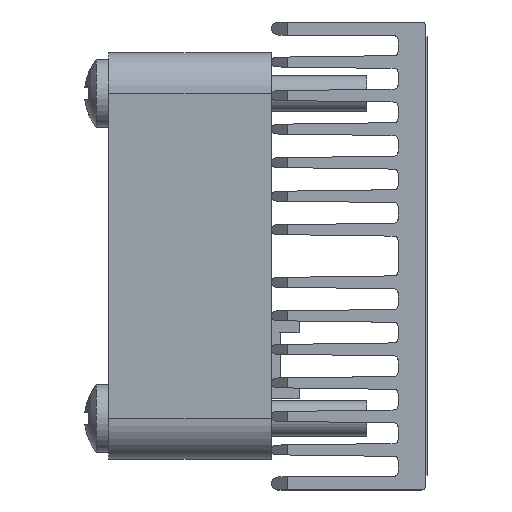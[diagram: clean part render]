
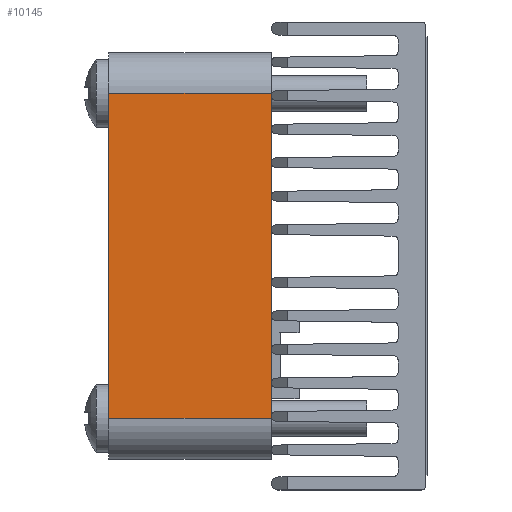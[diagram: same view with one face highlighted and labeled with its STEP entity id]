
A CAD part, left-side view. The second image highlights one B-rep face of the part: STEP entity #10145.
In plain terms, the highlighted planar face has unit normal (-1, 0, 0).
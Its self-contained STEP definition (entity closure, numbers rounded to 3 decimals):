
#857 = EDGE_LOOP ( 'NONE', ( #4885, #13428, #13962, #9591 ) ) ;
#2662 = DIRECTION ( 'NONE',  ( 0., -1., 0. ) ) ;
#3101 = VECTOR ( 'NONE', #11987, 1000. ) ;
#3375 = DIRECTION ( 'NONE',  ( 0., -1., 0. ) ) ;
#3704 = EDGE_CURVE ( 'NONE', #10472, #12248, #11474, .T. ) ;
#4844 = VECTOR ( 'NONE', #13564, 1000. ) ;
#4885 = ORIENTED_EDGE ( 'NONE', *, *, #16167, .T. ) ;
#5004 = VECTOR ( 'NONE', #2662, 1000. ) ;
#5822 = CARTESIAN_POINT ( 'NONE',  ( -16.008, 55.3, 6.534 ) ) ;
#6286 = CARTESIAN_POINT ( 'NONE',  ( -16.008, 55.3, 6.534 ) ) ;
#6735 = EDGE_CURVE ( 'NONE', #12422, #14879, #8528, .T. ) ;
#6761 = CARTESIAN_POINT ( 'NONE',  ( -16.008, 45.3, -13.466 ) ) ;
#7513 = CARTESIAN_POINT ( 'NONE',  ( -16.008, 55.3, -13.466 ) ) ;
#7682 = DIRECTION ( 'NONE',  ( 0., 0., -1. ) ) ;
#8086 = CARTESIAN_POINT ( 'NONE',  ( -16.008, 55.3, -13.466 ) ) ;
#8368 = PLANE ( 'NONE',  #14610 ) ;
#8528 = LINE ( 'NONE', #7513, #8687 ) ;
#8677 = CARTESIAN_POINT ( 'NONE',  ( -16.008, 45.3, 6.534 ) ) ;
#8687 = VECTOR ( 'NONE', #3375, 1000. ) ;
#9591 = ORIENTED_EDGE ( 'NONE', *, *, #6735, .T. ) ;
#9658 = CARTESIAN_POINT ( 'NONE',  ( -16.008, 55.3, 6.534 ) ) ;
#9979 = CARTESIAN_POINT ( 'NONE',  ( -16.008, 45.3, 6.534 ) ) ;
#10145 = ADVANCED_FACE ( 'NONE', ( #13700 ), #8368, .F. ) ;
#10472 = VERTEX_POINT ( 'NONE', #9658 ) ;
#10554 = EDGE_CURVE ( 'NONE', #12422, #10472, #13413, .T. ) ;
#11474 = LINE ( 'NONE', #12825, #5004 ) ;
#11987 = DIRECTION ( 'NONE',  ( 0., 0., 1. ) ) ;
#12248 = VERTEX_POINT ( 'NONE', #8677 ) ;
#12422 = VERTEX_POINT ( 'NONE', #8086 ) ;
#12825 = CARTESIAN_POINT ( 'NONE',  ( -16.008, 55.3, 6.534 ) ) ;
#13413 = LINE ( 'NONE', #5822, #3101 ) ;
#13428 = ORIENTED_EDGE ( 'NONE', *, *, #3704, .F. ) ;
#13564 = DIRECTION ( 'NONE',  ( 0., 0., 1. ) ) ;
#13640 = LINE ( 'NONE', #9979, #4844 ) ;
#13700 = FACE_OUTER_BOUND ( 'NONE', #857, .T. ) ;
#13962 = ORIENTED_EDGE ( 'NONE', *, *, #10554, .F. ) ;
#14610 = AXIS2_PLACEMENT_3D ( 'NONE', #6286, #16468, #7682 ) ;
#14879 = VERTEX_POINT ( 'NONE', #6761 ) ;
#16167 = EDGE_CURVE ( 'NONE', #14879, #12248, #13640, .T. ) ;
#16468 = DIRECTION ( 'NONE',  ( 1., 0., 0. ) ) ;
